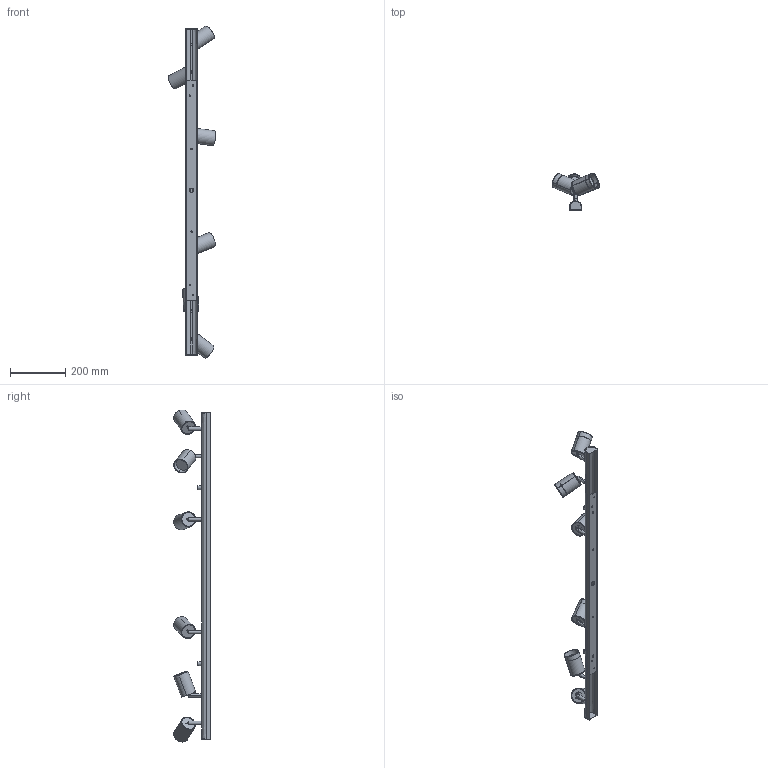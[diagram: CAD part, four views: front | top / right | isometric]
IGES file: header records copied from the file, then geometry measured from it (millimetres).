
Start section: SolidWorks IGES file using analytic representation for surfaces
Global section: file name: E:\3D lampy\Eye spot\Eye spot_VI\Eye spot VI.IGS; native system: SolidWorks 2016; preprocessor: SolidWorks 2016; author: Asia; date: 170517.111101; units: millimetre
Bounding box: 172.84 x 132.93 x 1206.98 mm (x, y, z)
Surface area: 581391.8 mm2 (no closed solid volume)
Topology: 0 solids, 0 shells, 1042 faces, 19759 edges, 19645 vertices
Faces by surface type: revolution 564, bspline 478
